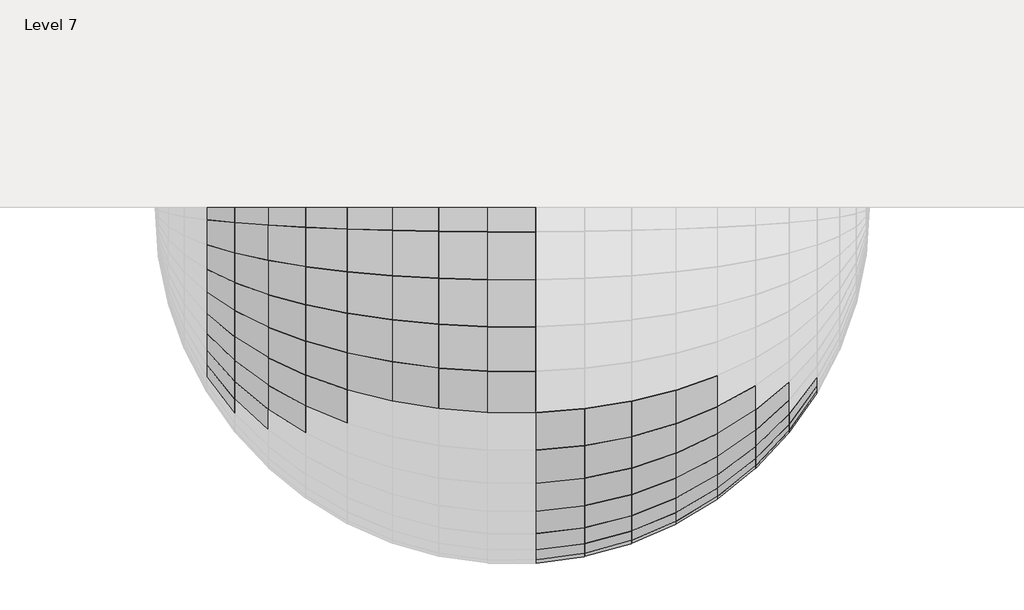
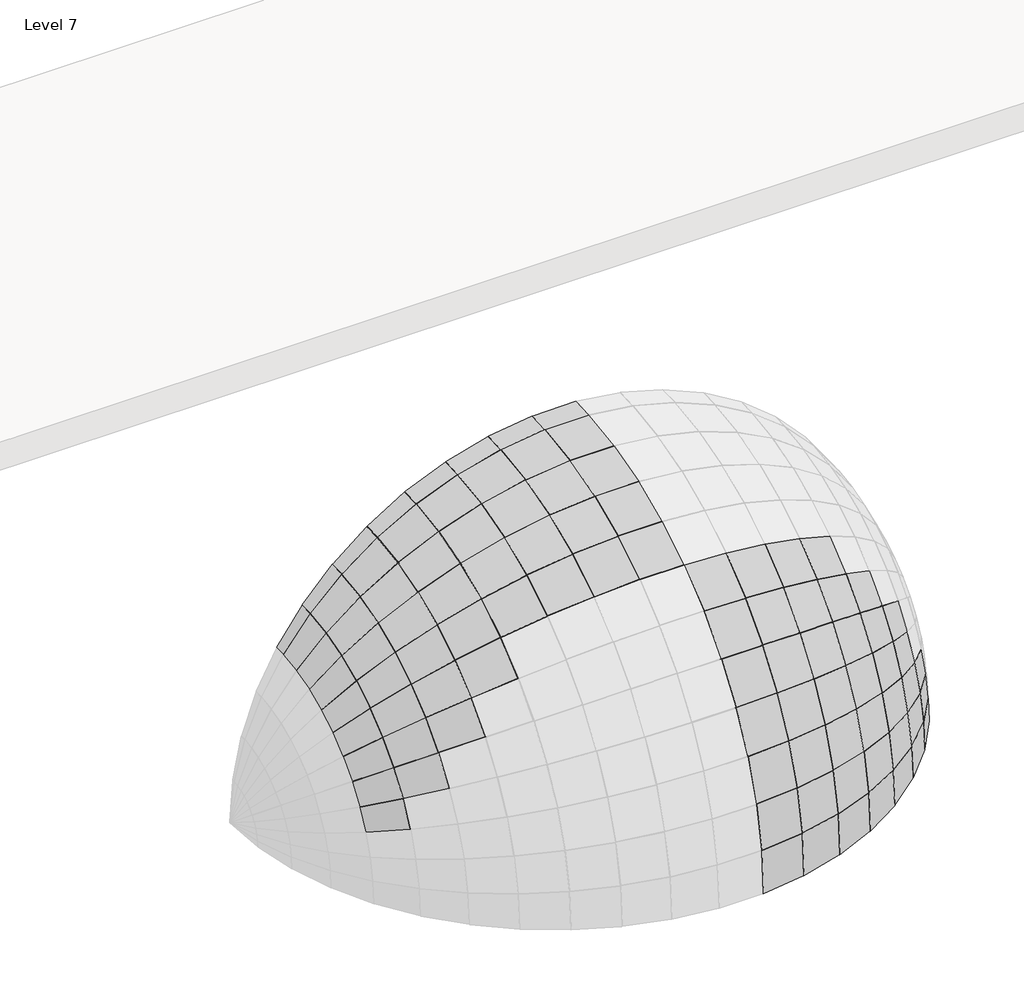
# One storey, part 2 of 3: 92 plates.
"""IFC4 building model written with IfcOpenShell, lengths in millimetres."""

from ifc_helpers import new_model, si_unit, origin, place, context, project, spatial, transform, mapped, element, save
from components import system_panel_glazed_054aaf1e, system_panel_glazed_d0cfcdc2, system_panel_glazed_7c4f69a4, system_panel_glazed_7d55cdd4, system_panel_glazed_fc79af4e, system_panel_glazed_79b3f248, system_panel_glazed_180d510e, system_panel_glazed_a12274b9, system_panel_glazed_a0e03bef, system_panel_glazed_9578890f, system_panel_glazed_840653ca, system_panel_glazed_4d6f9d44, system_panel_glazed_85b935d5, system_panel_glazed_d9b8dc20, system_panel_glazed_2d759943, system_panel_glazed_d4abd326, system_panel_glazed_30935f6d, system_panel_glazed_b87b3be6, system_panel_glazed_b6e2143d, system_panel_glazed_24286d06, system_panel_glazed_dedcf809, system_panel_glazed_0901b81b, system_panel_glazed_b232b679

model = new_model("IFC4")

# Units and contexts
model_context = context("Model", 3, world=origin())
ifc_project = project(units=[si_unit("LENGTHUNIT", "METRE", prefix="MILLI")], contexts=[model_context])

# Site, building, storey
site = spatial("IfcSite", under=ifc_project)
building = spatial("IfcBuilding", under=site)
storey = spatial("IfcBuildingStorey", under=building, Name="Level 7", Elevation=24000.0)

# Plates
placement = place(None, origin())
system_panel_glazed_shape = system_panel_glazed_054aaf1e(model_context)
element("IfcPlate", 1, ObjectType="System Panel : Glazed", at=placement, inside=storey, context=model_context, shape_type="MappedRepresentation", body=[
    mapped(system_panel_glazed_shape, transform((-3840.6464822, -3634.0650685, 17047.6400335), x_axis=(0.0, 0.4596875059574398, 0.8880807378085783), y_axis=(-0.8166520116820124, -0.5125383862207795, 0.2652996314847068), z_axis=(0.5771303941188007, -0.7252529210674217, 0.37540472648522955))),
])
element("IfcPlate", 2, ObjectType="System Panel : Glazed", at=placement, inside=storey, context=model_context, shape_type="MappedRepresentation", body=[
    mapped(system_panel_glazed_shape, transform((-3840.6464822, -3472.7197056, 17313.2518042), x_axis=(0.0, 0.5762336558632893, 0.817285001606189), y_axis=(-0.8166520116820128, -0.47168001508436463, 0.33256195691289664), z_axis=(0.5771303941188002, -0.6674374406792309, 0.47058237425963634))),
])
element("IfcPlate", 3, ObjectType="System Panel : Glazed", at=placement, inside=storey, context=model_context, shape_type="MappedRepresentation", body=[
    mapped(system_panel_glazed_shape, transform((-3840.6464822, -3276.7389543, 17554.4436032), x_axis=(0.0, 0.6820647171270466, 0.7312918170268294), y_axis=(-0.8166520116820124, -0.4220507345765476, 0.39364027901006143), z_axis=(0.577130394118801, -0.5972109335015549, 0.557009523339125))),
])
element("IfcPlate", 4, ObjectType="System Panel : Glazed", at=placement, inside=storey, context=model_context, shape_type="MappedRepresentation", body=[
    mapped(system_panel_glazed_shape, transform((-3840.6464822, -3049.7670848, 17766.7304593), x_axis=(0.0, 0.7752127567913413, 0.6317002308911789), y_axis=(-0.8166520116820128, -0.3645734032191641, 0.4473988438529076), z_axis=(0.5771303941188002, -0.5158792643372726, 0.6330790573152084))),
])
element("IfcPlate", 5, ObjectType="System Panel : Glazed", at=placement, inside=storey, context=model_context, shape_type="MappedRepresentation", body=[
    mapped(system_panel_glazed_shape, transform((-3840.6464822, -2796.0246482, 17946.1648894), x_axis=(0.0, 0.8539456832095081, 0.5203621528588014), y_axis=(-0.8166520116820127, -0.3003168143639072, 0.4928380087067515), z_axis=(0.5771303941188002, -0.4249547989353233, 0.6973764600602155))),
])
element("IfcPlate", 6, ObjectType="System Panel : Glazed", at=placement, inside=storey, context=model_context, shape_type="MappedRepresentation", body=[
    mapped(system_panel_glazed_shape, transform((-3840.6464822, -2520.2299958, 18089.410303), x_axis=(0.0, 0.9167994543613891, 0.3993479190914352), y_axis=(-0.8166520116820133, -0.23047582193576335, 0.5291128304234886), z_axis=(0.5771303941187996, -0.32612828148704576, 0.7487061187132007))),
])
element("IfcPlate", 7, ObjectType="System Panel : Glazed", at=placement, inside=storey, context=model_context, shape_type="MappedRepresentation", body=[
    mapped(system_panel_glazed_shape, transform((-3840.6464822, -2227.5115405, 18193.8030457), x_axis=(0.0, 0.9626053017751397, 0.270907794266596), y_axis=(-0.8166520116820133, -0.15634912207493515, 0.5555487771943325), z_axis=(0.5771303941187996, -0.2212373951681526, 0.7861135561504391))),
])
element("IfcPlate", 8, ObjectType="System Panel : Glazed", at=placement, inside=storey, context=model_context, shape_type="MappedRepresentation", body=[
    mapped(system_panel_glazed_shape, transform((-3840.6464822, -1923.312394, 18257.4019301), x_axis=(0.0, 0.9905114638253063, 0.1374301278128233), y_axis=(-0.8166520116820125, -0.07931510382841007, 0.5716542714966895), z_axis=(0.5771303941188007, -0.1122325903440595, 0.8089031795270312))),
])
system_panel_glazed_2_shape = system_panel_glazed_d0cfcdc2(model_context)
element("IfcPlate", 9, ObjectType="System Panel : Glazed", at=placement, inside=storey, context=model_context, shape_type="MappedRepresentation", body=[
    mapped(system_panel_glazed_2_shape, transform((-3840.6464822, -1689.5725514, 18281.5745896), x_axis=(0.0, 0.9993939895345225, 0.03480881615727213), y_axis=(-0.8171204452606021, -0.020066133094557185, 0.5761176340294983), z_axis=(0.5764669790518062, -0.028442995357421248, 0.8166252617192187))),
])
system_panel_glazed_3_shape = system_panel_glazed_7c4f69a4(model_context)
element("IfcPlate", 10, ObjectType="System Panel : Glazed", at=placement, inside=storey, context=model_context, shape_type="MappedRepresentation", body=[
    mapped(system_panel_glazed_3_shape, transform((-3494.9062887, -3872.5599363, 17595.1625176), x_axis=(0.0, 0.5762336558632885, 0.8172850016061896), y_axis=(-0.7304986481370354, -0.5581354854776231, 0.3935181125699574), z_axis=(0.6829141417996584, -0.5970255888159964, 0.4209379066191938))),
])
element("IfcPlate", 11, ObjectType="System Panel : Glazed", at=placement, inside=storey, context=model_context, shape_type="MappedRepresentation", body=[
    mapped(system_panel_glazed_3_shape, transform((-3494.9062887, -3634.5087509, 17888.1300324), x_axis=(0.0, 0.682064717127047, 0.7312918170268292), y_axis=(-0.730498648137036, -0.49940952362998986, 0.465791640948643), z_axis=(0.6829141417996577, -0.534207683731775, 0.49824735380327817))),
])
element("IfcPlate", 12, ObjectType="System Panel : Glazed", at=placement, inside=storey, context=model_context, shape_type="MappedRepresentation", body=[
    mapped(system_panel_glazed_3_shape, transform((-3494.9062887, -3358.8137032, 18145.9876913), x_axis=(0.0, 0.77521275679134, 0.6317002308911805), y_axis=(-0.730498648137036, -0.4313970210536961, 0.5294037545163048), z_axis=(0.6829141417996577, -0.46145616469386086, 0.5662918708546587))),
])
element("IfcPlate", 13, ObjectType="System Panel : Glazed", at=placement, inside=storey, context=model_context, shape_type="MappedRepresentation", body=[
    mapped(system_panel_glazed_3_shape, transform((-3494.9062887, -3050.6013538, 18363.9406204), x_axis=(0.0, 0.8539456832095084, 0.5203621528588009), y_axis=(-0.730498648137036, -0.3553626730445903, 0.5831715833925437), z_axis=(0.6829141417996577, -0.38012384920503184, 0.6238061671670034))),
])
element("IfcPlate", 14, ObjectType="System Panel : Glazed", at=placement, inside=storey, context=model_context, shape_type="MappedRepresentation", body=[
    mapped(system_panel_glazed_3_shape, transform((-3494.9062887, -2715.6029242, 18537.9359759), x_axis=(0.0, 0.9167994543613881, 0.3993479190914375), y_axis=(-0.7304986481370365, -0.2727203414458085, 0.626095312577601), z_axis=(0.6829141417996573, -0.29172311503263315, 0.6697207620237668))),
])
element("IfcPlate", 15, ObjectType="System Panel : Glazed", at=placement, inside=storey, context=model_context, shape_type="MappedRepresentation", body=[
    mapped(system_panel_glazed_3_shape, transform((-3494.9062887, -2360.047724, 18664.7383071), x_axis=(0.0, 0.9626053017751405, 0.27090779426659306), y_axis=(-0.7304986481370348, -0.18500676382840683, 0.6573767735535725), z_axis=(0.682914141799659, -0.19789777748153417, 0.703181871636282))),
])
element("IfcPlate", 16, ObjectType="System Panel : Glazed", at=placement, inside=storey, context=model_context, shape_type="MappedRepresentation", body=[
    mapped(system_panel_glazed_3_shape, transform((-3494.9062887, -1990.5473168, 18741.9897194), x_axis=(0.0, 0.9905114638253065, 0.13743012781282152), y_axis=(-0.7304986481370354, -0.09385297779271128, 0.6764342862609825), z_axis=(0.6829141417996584, -0.10039252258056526, 0.7235672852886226))),
])
system_panel_glazed_4_shape = system_panel_glazed_7d55cdd4(model_context)
element("IfcPlate", 17, ObjectType="System Panel : Glazed", at=placement, inside=storey, context=model_context, shape_type="MappedRepresentation", body=[
    mapped(system_panel_glazed_4_shape, transform((-3494.9062887, -1706.6314413, 18771.3514307), x_axis=(0.0, 0.9993939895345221, 0.03480881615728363), y_axis=(-0.7310855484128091, -0.023749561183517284, 0.6818723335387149), z_axis=(0.6822858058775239, -0.025448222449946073, 0.7306425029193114))),
])
system_panel_glazed_5_shape = system_panel_glazed_fc79af4e(model_context)
element("IfcPlate", 18, ObjectType="System Panel : Glazed", at=placement, inside=storey, context=model_context, shape_type="MappedRepresentation", body=[
    mapped(system_panel_glazed_5_shape, transform((-3085.6674584, -3954.6346851, 18186.7066057), x_axis=(0.0, 0.682064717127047, 0.7312918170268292), y_axis=(-0.6308155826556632, -0.5674333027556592, 0.5292363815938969), z_axis=(0.775932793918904, -0.4613102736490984, 0.4302570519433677))),
])
element("IfcPlate", 19, ObjectType="System Panel : Glazed", at=placement, inside=storey, context=model_context, shape_type="MappedRepresentation", body=[
    mapped(system_panel_glazed_5_shape, transform((-3085.6674584, -3635.34302, 18485.3401935), x_axis=(0.0, 0.7752127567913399, 0.6317002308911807), y_axis=(-0.6308155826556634, -0.49015692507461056, 0.6015130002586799), z_axis=(0.7759327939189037, -0.3984863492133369, 0.4890162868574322))),
])
element("IfcPlate", 20, ObjectType="System Panel : Glazed", at=placement, inside=storey, context=model_context, shape_type="MappedRepresentation", body=[
    mapped(system_panel_glazed_5_shape, transform((-3085.6674584, -3278.3919791, 18737.7587778), x_axis=(0.0, 0.853945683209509, 0.5203621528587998), y_axis=(-0.6308155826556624, -0.40376605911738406, 0.6626044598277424), z_axis=(0.7759327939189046, -0.32825255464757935, 0.5386822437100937))),
])
element("IfcPlate", 21, ObjectType="System Panel : Glazed", at=placement, inside=storey, context=model_context, shape_type="MappedRepresentation", body=[
    mapped(system_panel_glazed_5_shape, transform((-3085.6674584, -2890.419082, 18939.2686245), x_axis=(0.0, 0.9167994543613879, 0.39934791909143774), y_axis=(-0.630815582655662, -0.30986714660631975, 0.7113747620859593), z_axis=(0.7759327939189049, -0.2519148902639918, 0.5783313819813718))),
])
element("IfcPlate", 22, ObjectType="System Panel : Glazed", at=placement, inside=storey, context=model_context, shape_type="MappedRepresentation", body=[
    mapped(system_panel_glazed_5_shape, transform((-3085.6674584, -2478.6387005, 19086.1226496), x_axis=(0.0, 0.9626053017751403, 0.2709077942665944), y_axis=(-0.6308155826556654, -0.21020624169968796, 0.7469170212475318), z_axis=(0.7759327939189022, -0.17089285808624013, 0.6072264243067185))),
])
element("IfcPlate", 23, ObjectType="System Panel : Glazed", at=placement, inside=storey, context=model_context, shape_type="MappedRepresentation", body=[
    mapped(system_panel_glazed_5_shape, transform((-3085.6674584, -2050.707908, 19175.5900966), x_axis=(0.0, 0.9905114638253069, 0.13743012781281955), y_axis=(-0.6308155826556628, -0.10663654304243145, 0.7685703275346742), z_axis=(0.7759327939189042, -0.0866930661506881, 0.6248300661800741))),
])
system_panel_glazed_6_shape = system_panel_glazed_79b3f248(model_context)
element("IfcPlate", 24, ObjectType="System Panel : Glazed", at=placement, inside=storey, context=model_context, shape_type="MappedRepresentation", body=[
    mapped(system_panel_glazed_6_shape, transform((-3085.6674584, -1721.895427, 19209.5948775), x_axis=(0.0, 0.9993939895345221, 0.034808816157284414), y_axis=(-0.6314700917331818, -0.026990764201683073, 0.7749303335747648), z_axis=(0.7754002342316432, -0.021980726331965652, 0.6310874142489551))),
])
system_panel_glazed_7_shape = system_panel_glazed_180d510e(model_context)
element("IfcPlate", 25, ObjectType="System Panel : Glazed", at=placement, inside=storey, context=model_context, shape_type="MappedRepresentation", body=[
    mapped(system_panel_glazed_7_shape, transform((-2620.5398043, -3874.2129611, 18778.4776922), x_axis=(0.0, 0.7752127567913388, 0.6317002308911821), y_axis=(-0.5194782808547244, -0.5397775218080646, 0.6624066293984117), z_axis=(0.8544836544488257, -0.32815454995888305, 0.4027061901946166))),
])
element("IfcPlate", 26, ObjectType="System Panel : Glazed", at=placement, inside=storey, context=model_context, shape_type="MappedRepresentation", body=[
    mapped(system_panel_glazed_7_shape, transform((-2620.5398043, -3475.1607481, 19060.6681976), x_axis=(0.0, 0.8539456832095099, 0.5203621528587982), y_axis=(-0.5194782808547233, -0.44464095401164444, 0.7296826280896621), z_axis=(0.8544836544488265, -0.27031683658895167, 0.44360623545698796))),
])
element("IfcPlate", 27, ObjectType="System Panel : Glazed", at=placement, inside=storey, context=model_context, shape_type="MappedRepresentation", body=[
    mapped(system_panel_glazed_7_shape, transform((-2620.5398043, -3041.4277555, 19285.9454515), x_axis=(0.0, 0.916799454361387, 0.3993479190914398), y_axis=(-0.5194782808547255, -0.34123626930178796, 0.7833901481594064), z_axis=(0.8544836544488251, -0.20745257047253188, 0.4762574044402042))),
])
element("IfcPlate", 28, ObjectType="System Panel : Glazed", at=placement, inside=storey, context=model_context, shape_type="MappedRepresentation", body=[
    mapped(system_panel_glazed_7_shape, transform((-2620.5398043, -2581.079266, 19450.1204139), x_axis=(0.0, 0.9626053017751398, 0.27090779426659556), y_axis=(-0.5194782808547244, -0.23148628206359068, 0.8225304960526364), z_axis=(0.8544836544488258, -0.14073071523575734, 0.5000525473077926))),
])
element("IfcPlate", 29, ObjectType="System Panel : Glazed", at=placement, inside=storey, context=model_context, shape_type="MappedRepresentation", body=[
    mapped(system_panel_glazed_7_shape, transform((-2620.5398043, -2102.6754789, 19550.1402447), x_axis=(0.0, 0.9905114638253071, 0.1374301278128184), y_axis=(-0.5194782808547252, -0.11743179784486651, 0.8463758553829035), z_axis=(0.8544836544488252, -0.07139196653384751, 0.514549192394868))),
])
system_panel_glazed_8_shape = system_panel_glazed_a12274b9(model_context)
element("IfcPlate", 30, ObjectType="System Panel : Glazed", at=placement, inside=storey, context=model_context, shape_type="MappedRepresentation", body=[
    mapped(system_panel_glazed_8_shape, transform((-2620.5398043, -1735.0806741, 19588.1557748), x_axis=(0.0, 0.9993939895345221, 0.03480881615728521), y_axis=(-0.5201321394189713, -0.029729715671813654, 0.8535682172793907), z_axis=(0.8540858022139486, -0.018105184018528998, 0.5198169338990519))),
])
system_panel_glazed_9_shape = system_panel_glazed_a0e03bef(model_context)
element("IfcPlate", 31, ObjectType="System Panel : Glazed", at=placement, inside=storey, context=model_context, shape_type="MappedRepresentation", body=[
    mapped(system_panel_glazed_9_shape, transform((-2108.1723944, -3637.2487374, 19326.6643658), x_axis=(0.0, 0.85394568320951, 0.5203621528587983), y_axis=(-0.3985663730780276, -0.47724468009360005, 0.7831873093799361), z_axis=(0.9171394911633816, -0.20739885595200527, 0.3403540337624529))),
])
element("IfcPlate", 32, ObjectType="System Panel : Glazed", at=placement, inside=storey, context=model_context, shape_type="MappedRepresentation", body=[
    mapped(system_panel_glazed_9_shape, transform((-2108.1723944, -3165.8209322, 19571.5199871), x_axis=(0.0, 0.9167994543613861, 0.399347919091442), y_axis=(-0.39856637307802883, -0.36625774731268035, 0.8408329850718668), z_axis=(0.9171394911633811, -0.15916665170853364, 0.3654054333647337))),
])
element("IfcPlate", 33, ObjectType="System Panel : Glazed", at=placement, inside=storey, context=model_context, shape_type="MappedRepresentation", body=[
    mapped(system_panel_glazed_9_shape, transform((-2108.1723944, -2665.4645339, 19749.9630465), x_axis=(0.0, 0.9626053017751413, 0.2709077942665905), y_axis=(-0.3985663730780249, -0.24846023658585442, 0.8828433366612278), z_axis=(0.9171394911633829, -0.1079747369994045, 0.3836621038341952))),
])
element("IfcPlate", 34, ObjectType="System Panel : Glazed", at=placement, inside=storey, context=model_context, shape_type="MappedRepresentation", body=[
    mapped(system_panel_glazed_9_shape, transform((-2108.1723944, -2145.4836904, 19858.6753882), x_axis=(0.0, 0.9905114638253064, 0.13743012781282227), y_axis=(-0.39856637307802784, -0.12604259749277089, 0.9084371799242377), z_axis=(0.9171394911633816, -0.054775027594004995, 0.3947845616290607))),
])
system_panel_glazed_10_shape = system_panel_glazed_9578890f(model_context)
element("IfcPlate", 35, ObjectType="System Panel : Glazed", at=placement, inside=storey, context=model_context, shape_type="MappedRepresentation", body=[
    mapped(system_panel_glazed_10_shape, transform((-2108.1723944, -1745.9420024, 19899.9947673), x_axis=(0.0, 0.9993939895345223, 0.034808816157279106), y_axis=(-0.3991444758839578, -0.031915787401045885, 0.9163324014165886), z_axis=(0.9168880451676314, -0.013893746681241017, 0.39890259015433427))),
])
system_panel_glazed_11_shape = system_panel_glazed_840653ca(model_context)
element("IfcPlate", 36, ObjectType="System Panel : Glazed", at=placement, inside=storey, context=model_context, shape_type="MappedRepresentation", body=[
    mapped(system_panel_glazed_11_shape, transform((-1558.0927218, -3761.6419141, 19530.8010727), x_axis=(0.0, 0.8539456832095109, 0.5203621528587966), y_axis=(-0.27032348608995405, -0.5009888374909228, 0.8221529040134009), z_axis=(0.9627695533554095, -0.14066611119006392, 0.23084157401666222))),
])
element("IfcPlate", 37, ObjectType="System Panel : Glazed", at=placement, inside=storey, context=model_context, shape_type="MappedRepresentation", body=[
    mapped(system_panel_glazed_11_shape, transform((-1558.0927218, -3261.2855158, 19790.6819609), x_axis=(0.0, 0.9167994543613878, 0.39934791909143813), y_axis=(-0.2703234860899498, -0.3844800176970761, 0.8826666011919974), z_axis=(0.9627695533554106, -0.10795312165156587, 0.24783242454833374))),
])
element("IfcPlate", 38, ObjectType="System Panel : Glazed", at=placement, inside=storey, context=model_context, shape_type="MappedRepresentation", body=[
    mapped(system_panel_glazed_11_shape, transform((-1558.0927218, -2730.2253566, 19980.0749614), x_axis=(0.0, 0.9626053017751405, 0.27090779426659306), y_axis=(-0.27032348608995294, -0.26082177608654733, 0.9267670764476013), z_axis=(0.9627695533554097, -0.07323273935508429, 0.26021482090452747))),
])
element("IfcPlate", 39, ObjectType="System Panel : Glazed", at=placement, inside=storey, context=model_context, shape_type="MappedRepresentation", body=[
    mapped(system_panel_glazed_11_shape, transform((-1558.0927218, -2178.336522, 20095.4583035), x_axis=(0.0, 0.9905114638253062, 0.13743012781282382), y_axis=(-0.27032348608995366, -0.1323135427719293, 0.953634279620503), z_axis=(0.9627695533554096, -0.03715059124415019, 0.26775851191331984))),
])
system_panel_glazed_12_shape = system_panel_glazed_4d6f9d44(model_context)
element("IfcPlate", 40, ObjectType="System Panel : Glazed", at=placement, inside=storey, context=model_context, shape_type="MappedRepresentation", body=[
    mapped(system_panel_glazed_12_shape, transform((-1558.0927218, -1754.2774449, 20139.313196), x_axis=(0.0, 0.9993939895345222, 0.03480881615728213), y_axis=(-0.27075565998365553, -0.03350864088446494, 0.962064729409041), z_axis=(0.9626481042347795, -0.009424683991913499, 0.27059157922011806))),
])
system_panel_glazed_13_shape = system_panel_glazed_85b935d5(model_context)
element("IfcPlate", 41, ObjectType="System Panel : Glazed", at=placement, inside=storey, context=model_context, shape_type="MappedRepresentation", body=[
    mapped(system_panel_glazed_13_shape, transform((-980.5295407, -3846.027182, 19669.2823877), x_axis=(0.0, 0.8539456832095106, 0.5203621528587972), y_axis=(-0.13711633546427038, -0.5154473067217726, 0.845880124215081), z_axis=(0.9905549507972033, -0.07135015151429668, 0.11708990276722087))),
])
element("IfcPlate", 42, ObjectType="System Panel : Glazed", at=placement, inside=storey, context=model_context, shape_type="MappedRepresentation", body=[
    mapped(system_panel_glazed_13_shape, transform((-980.5295407, -3326.0463385, 19939.356047), x_axis=(0.0, 0.9167994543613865, 0.3993479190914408), y_axis=(-0.1371163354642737, -0.3955760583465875, 0.9081402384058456), z_axis=(0.9905549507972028, -0.05475712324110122, 0.12570818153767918))),
])
element("IfcPlate", 43, ObjectType="System Panel : Glazed", at=placement, inside=storey, context=model_context, shape_type="MappedRepresentation", body=[
    mapped(system_panel_glazed_13_shape, transform((-980.5295407, -2774.1575039, 20136.1772178), x_axis=(0.0, 0.9626053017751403, 0.2709077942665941), y_axis=(-0.1371163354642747, -0.26834905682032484, 0.9535134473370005), z_axis=(0.9905549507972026, -0.037145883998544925, 0.13198891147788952))),
])
element("IfcPlate", 44, ObjectType="System Panel : Glazed", at=placement, inside=storey, context=model_context, shape_type="MappedRepresentation", body=[
    mapped(system_panel_glazed_13_shape, transform((-980.5295407, -2200.6230739, 20256.0860023), x_axis=(0.0, 0.9905114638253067, 0.13743012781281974), y_axis=(-0.13711633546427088, -0.1361320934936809, 0.9811560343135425), z_axis=(0.9905549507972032, -0.01884391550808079, 0.1358153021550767))),
])
system_panel_glazed_14_shape = system_panel_glazed_d9b8dc20(model_context)
element("IfcPlate", 45, ObjectType="System Panel : Glazed", at=placement, inside=storey, context=model_context, shape_type="MappedRepresentation", body=[
    mapped(system_panel_glazed_14_shape, transform((-980.5295407, -1759.9320039, 20301.6609247), x_axis=(0.0, 0.9993939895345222, 0.0348088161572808), y_axis=(-0.1373484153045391, -0.034478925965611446, 0.9899225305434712), z_axis=(0.990522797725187, -0.004780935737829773, 0.13726518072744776))),
])
system_panel_glazed_15_shape = system_panel_glazed_2d759943(model_context)
element("IfcPlate", 46, ObjectType="System Panel : Glazed", at=placement, inside=storey, context=model_context, shape_type="MappedRepresentation", body=[
    mapped(system_panel_glazed_15_shape, transform((-386.2226624, -3888.8353935, 19739.5332451), x_axis=(0.0, 0.8539456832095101, 0.520362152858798), y_axis=(-0.0013936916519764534, -0.5203616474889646, 0.8539448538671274), z_axis=(0.9999990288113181, -0.0007252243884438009, 0.001190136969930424))),
])
element("IfcPlate", 47, ObjectType="System Panel : Glazed", at=placement, inside=storey, context=model_context, shape_type="MappedRepresentation", body=[
    mapped(system_panel_glazed_15_shape, transform((-386.2226624, -3358.8991701, 20014.7776447), x_axis=(0.0, 0.9167994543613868, 0.3993479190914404), y_axis=(-0.0013936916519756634, -0.3993475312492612, 0.916798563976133), z_axis=(0.9999990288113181, -0.0005565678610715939, 0.0012777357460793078))),
])
element("IfcPlate", 48, ObjectType="System Panel : Glazed", at=placement, inside=storey, context=model_context, shape_type="MappedRepresentation", body=[
    mapped(system_panel_glazed_15_shape, transform((-386.2226624, -2796.4440559, 20215.367088), x_axis=(0.0, 0.9626053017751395, 0.2709077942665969), y_axis=(-0.0013936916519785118, -0.2709075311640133, 0.9626043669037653), z_axis=(0.9999990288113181, -0.0003775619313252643, 0.0013415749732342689))),
])
element("IfcPlate", 49, ObjectType="System Panel : Glazed", at=placement, inside=storey, context=model_context, shape_type="MappedRepresentation", body=[
    mapped(system_panel_glazed_15_shape, transform((-386.2226624, -2211.9289269, 20337.5716061), x_axis=(0.0, 0.9905114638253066, 0.13743012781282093), y_axis=(-0.0013936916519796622, -0.13742999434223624, 0.9905105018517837), z_axis=(0.999999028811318, -0.0001915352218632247, 0.001380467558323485))),
])
system_panel_glazed_16_shape = system_panel_glazed_d4abd326(model_context)
element("IfcPlate", 50, ObjectType="System Panel : Glazed", at=placement, inside=storey, context=model_context, shape_type="MappedRepresentation", body=[
    mapped(system_panel_glazed_16_shape, transform((-386.2226624, -1762.8005325, 20384.0190907), x_axis=(0.0, 0.9993939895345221, 0.03480881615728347), y_axis=(-0.0013960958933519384, -0.0348087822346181, 0.9993930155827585), z_axis=(0.9999990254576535, -4.859644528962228e-05, 0.0013952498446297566))),
])
system_panel_glazed_17_shape = system_panel_glazed_30935f6d(model_context)
element("IfcPlate", 51, ObjectType="System Panel : Glazed", at=placement, inside=storey, context=model_context, shape_type="MappedRepresentation", body=[
    mapped(system_panel_glazed_17_shape, transform((213.7767522, -5979.872222, 16298.6335879), x_axis=(0.0, 0.068181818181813, 0.9976729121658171), y_axis=(0.134354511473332, -0.9886273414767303, 0.06756363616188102), z_axis=(0.9909333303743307, 0.13404185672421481, -0.009160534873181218))),
])
element("IfcPlate", 52, ObjectType="System Panel : Glazed", at=placement, inside=storey, context=model_context, shape_type="MappedRepresentation", body=[
    mapped(system_panel_glazed_17_shape, transform((213.7767522, -5898.6162289, 16890.3476597), x_axis=(0.0, 0.2032776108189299, 0.9791211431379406), y_axis=(0.13435451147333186, -0.9702437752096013, 0.20143455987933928), z_axis=(0.9909333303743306, 0.13154934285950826, -0.02731126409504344))),
])
element("IfcPlate", 53, ObjectType="System Panel : Glazed", at=placement, inside=storey, context=model_context, shape_type="MappedRepresentation", body=[
    mapped(system_panel_glazed_17_shape, transform((213.7767522, -5737.6152013, 17465.50568), x_axis=(0.0, 0.33459344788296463, 0.9423625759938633), y_axis=(0.134354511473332, -0.9338184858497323, 0.3315597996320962), z_axis=(0.9909333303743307, 0.12661066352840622, -0.04495413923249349))),
])
element("IfcPlate", 54, ObjectType="System Panel : Glazed", at=placement, inside=storey, context=model_context, shape_type="MappedRepresentation", body=[
    mapped(system_panel_glazed_17_shape, transform((213.7767522, -5499.8629599, 18013.4125617), x_axis=(0.0, 0.45968750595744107, 0.8880807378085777), y_axis=(0.13435451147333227, -0.8800288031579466, 0.4555196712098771), z_axis=(0.9909333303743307, 0.11931765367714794, -0.06176109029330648))),
])
element("IfcPlate", 55, ObjectType="System Panel : Glazed", at=placement, inside=storey, context=model_context, shape_type="MappedRepresentation", body=[
    mapped(system_panel_glazed_17_shape, transform((213.7767522, -5189.7805175, 18523.8799535), x_axis=(0.0, 0.576233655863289, 0.8172850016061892), y_axis=(0.13435451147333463, -0.809874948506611, 0.5710091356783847), z_axis=(0.9909333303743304, 0.10980592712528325, -0.07741959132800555))),
])
element("IfcPlate", 56, ObjectType="System Panel : Glazed", at=placement, inside=storey, context=model_context, shape_type="MappedRepresentation", body=[
    mapped(system_panel_glazed_17_shape, transform((213.7767522, -4813.1338699, 18987.4156934), x_axis=(0.0, 0.682064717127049, 0.7312918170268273), y_axis=(0.13435451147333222, -0.7246614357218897, 0.6758806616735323), z_axis=(0.9909333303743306, 0.09825235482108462, -0.09163847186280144))),
])
element("IfcPlate", 57, ObjectType="System Panel : Glazed", at=placement, inside=storey, context=model_context, shape_type="MappedRepresentation", body=[
    mapped(system_panel_glazed_17_shape, transform((213.7767522, -4376.9267772, 19395.4003149), x_axis=(0.0, 0.7752127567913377, 0.6317002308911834), y_axis=(0.13435451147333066, -0.6259728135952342, 0.7681841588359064), z_axis=(0.990933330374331, 0.08487177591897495, -0.10415333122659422))),
])
system_panel_glazed_18_shape = system_panel_glazed_b87b3be6(model_context)
element("IfcPlate", 58, ObjectType="System Panel : Glazed", at=placement, inside=storey, context=model_context, shape_type="MappedRepresentation", body=[
    mapped(system_panel_glazed_18_shape, transform((808.3116891, -5899.4504979, 16293.1374986), x_axis=(0.0, 0.0681818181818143, 0.997672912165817), y_axis=(0.26763792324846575, -0.9612773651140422, 0.0656945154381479), z_axis=(0.9635195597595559, 0.2670151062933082, -0.018248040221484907))),
])
element("IfcPlate", 59, ObjectType="System Panel : Glazed", at=placement, inside=storey, context=model_context, shape_type="MappedRepresentation", body=[
    mapped(system_panel_glazed_18_shape, transform((808.3116891, -5819.6899501, 16873.961592), x_axis=(0.0, 0.2032776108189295, 0.9791211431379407), y_axis=(0.26763792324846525, -0.9434023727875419, 0.1958619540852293), z_axis=(0.963519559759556, 0.2620499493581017, -0.05440479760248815))),
])
element("IfcPlate", 60, ObjectType="System Panel : Glazed", at=placement, inside=storey, context=model_context, shape_type="MappedRepresentation", body=[
    mapped(system_panel_glazed_18_shape, transform((808.3116891, -5661.6520052, 17438.5343334), x_axis=(0.0, 0.33459344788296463, 0.9423625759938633), y_axis=(0.2676379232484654, -0.9079847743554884, 0.32238733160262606), z_axis=(0.9635195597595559, 0.25221196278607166, -0.08954989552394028))),
])
element("IfcPlate", 61, ObjectType="System Panel : Glazed", at=placement, inside=storey, context=model_context, shape_type="MappedRepresentation", body=[
    mapped(system_panel_glazed_18_shape, transform((808.3116891, -5428.2753853, 17976.3574695), x_axis=(0.0, 0.45968750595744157, 0.8880807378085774), y_axis=(0.2676379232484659, -0.855683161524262, 0.44291790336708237), z_axis=(0.9635195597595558, 0.23768408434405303, -0.12302980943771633))),
])
element("IfcPlate", 62, ObjectType="System Panel : Glazed", at=placement, inside=storey, context=model_context, shape_type="MappedRepresentation", body=[
    mapped(system_panel_glazed_18_shape, transform((808.3116891, -5123.8997383, 18477.4301567), x_axis=(0.0, 0.5762336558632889, 0.8172850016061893), y_axis=(0.26763792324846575, -0.7874700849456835, 0.5552123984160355), z_axis=(0.9635195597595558, 0.2187364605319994, -0.15422197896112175))),
])
element("IfcPlate", 63, ObjectType="System Panel : Glazed", at=placement, inside=storey, context=model_context, shape_type="MappedRepresentation", body=[
    mapped(system_panel_glazed_18_shape, transform((808.3116891, -4754.1849419, 18932.4349278), x_axis=(0.0, 0.6820647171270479, 0.7312918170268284), y_axis=(0.2676379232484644, -0.7046139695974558, 0.6571826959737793), z_axis=(0.9635195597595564, 0.19572142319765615, -0.1825463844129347))),
])
element("IfcPlate", 64, ObjectType="System Panel : Glazed", at=placement, inside=storey, context=model_context, shape_type="MappedRepresentation", body=[
    mapped(system_panel_glazed_18_shape, transform((808.3116891, -4326.0058581, 19332.9109503), x_axis=(0.0, 0.7752127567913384, 0.6317002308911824), y_axis=(0.2676379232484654, -0.608655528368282, 0.7469326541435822), z_axis=(0.963519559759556, 0.1690669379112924, -0.2074763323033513))),
])
system_panel_glazed_19_shape = system_panel_glazed_b6e2143d(model_context)
element("IfcPlate", 65, ObjectType="System Panel : Glazed", at=placement, inside=storey, context=model_context, shape_type="MappedRepresentation", body=[
    mapped(system_panel_glazed_19_shape, transform((1386.3267467, -5739.2682261, 16282.1905055), x_axis=(0.0, 0.06818181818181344, 0.9976729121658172), y_axis=(0.39600652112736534, -0.9161108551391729, 0.0626077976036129), z_axis=(0.9182476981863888, 0.3950849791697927, -0.02700044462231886))),
])
element("IfcPlate", 66, ObjectType="System Panel : Glazed", at=placement, inside=storey, context=model_context, shape_type="MappedRepresentation", body=[
    mapped(system_panel_glazed_19_shape, transform((1386.3267467, -5662.4862743, 16841.3241723), x_axis=(0.0, 0.2032776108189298, 0.9791211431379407), y_axis=(0.3960065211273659, -0.8990757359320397, 0.18665919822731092), z_axis=(0.9182476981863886, 0.3877383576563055, -0.08049925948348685))),
])
element("IfcPlate", 67, ObjectType="System Panel : Glazed", at=placement, inside=storey, context=model_context, shape_type="MappedRepresentation", body=[
    mapped(system_panel_glazed_19_shape, transform((1386.3267467, -5510.3501342, 17384.8133814), x_axis=(0.0, 0.3345934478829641, 0.9423625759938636), y_axis=(0.3960065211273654, -0.8653222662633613, 0.3072396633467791), z_axis=(0.9182476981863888, 0.3731817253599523, -0.13250118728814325))),
])
element("IfcPlate", 68, ObjectType="System Panel : Glazed", at=placement, inside=storey, context=model_context, shape_type="MappedRepresentation", body=[
    mapped(system_panel_glazed_19_shape, transform((1386.3267467, -5285.6887836, 17902.5519285), x_axis=(0.0, 0.45968750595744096, 0.8880807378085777), y_axis=(0.3960065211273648, -0.8154780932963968, 0.42210699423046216), z_axis=(0.9182476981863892, 0.35168576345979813, -0.1820392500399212))),
])
element("IfcPlate", 69, ObjectType="System Panel : Glazed", at=placement, inside=storey, context=model_context, shape_type="MappedRepresentation", body=[
    mapped(system_panel_glazed_19_shape, transform((1386.3267467, -4992.6798097, 18384.9124438), x_axis=(0.0, 0.5762336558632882, 0.8172850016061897), y_axis=(0.3960065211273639, -0.7504700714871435, 0.5291252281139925), z_axis=(0.9182476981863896, 0.32365019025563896, -0.22819228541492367))),
])
element("IfcPlate", 70, ObjectType="System Panel : Glazed", at=placement, inside=storey, context=model_context, shape_type="MappedRepresentation", body=[
    mapped(system_panel_glazed_19_shape, transform((1386.3267467, -4636.7717264, 18822.9254136), x_axis=(0.0, 0.6820647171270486, 0.7312918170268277), y_axis=(0.3960065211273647, -0.6715070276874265, 0.6263043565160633), z_axis=(0.9182476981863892, 0.2895963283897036, -0.2701020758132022))),
])
element("IfcPlate", 71, ObjectType="System Panel : Glazed", at=placement, inside=storey, context=model_context, shape_type="MappedRepresentation", body=[
    mapped(system_panel_glazed_19_shape, transform((1386.3267467, -4224.5826593, 19208.4459688), x_axis=(0.0, 0.7752127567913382, 0.6317002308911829), y_axis=(0.3960065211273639, -0.5800572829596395, 0.7118373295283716), z_axis=(0.9182476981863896, 0.2501574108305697, -0.3069893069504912))),
])
system_panel_glazed_20_shape = system_panel_glazed_24286d06(model_context)
element("IfcPlate", 72, ObjectType="System Panel : Glazed", at=placement, inside=storey, context=model_context, shape_type="MappedRepresentation", body=[
    mapped(system_panel_glazed_20_shape, transform((1937.073711, -5502.3040024, 16265.9961682), x_axis=(0.0, 0.06818181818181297, 0.9976729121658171), y_axis=(0.5170914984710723, -0.8539383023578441, 0.058358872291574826), z_axis=(0.8559301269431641, 0.5158881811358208, -0.035256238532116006))),
])
element("IfcPlate", 73, ObjectType="System Panel : Glazed", at=placement, inside=storey, context=model_context, shape_type="MappedRepresentation", body=[
    mapped(system_panel_glazed_20_shape, transform((1937.073711, -5429.9284101, 16793.0422949), x_axis=(0.0, 0.20327761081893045, 0.9791211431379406), y_axis=(0.5170914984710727, -0.8380592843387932, 0.17399143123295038), z_axis=(0.8559301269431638, 0.5062952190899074, -0.10511312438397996))),
])
element("IfcPlate", 74, ObjectType="System Panel : Glazed", at=placement, inside=storey, context=model_context, shape_type="MappedRepresentation", body=[
    mapped(system_panel_glazed_20_shape, transform((1937.073711, -5286.5230527, 17305.3417674), x_axis=(0.0, 0.33459344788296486, 0.9423625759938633), y_axis=(0.5170914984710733, -0.8065965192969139, 0.28638861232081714), z_axis=(0.8559301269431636, 0.4872876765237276, -0.17301542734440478))),
])
element("IfcPlate", 75, ObjectType="System Panel : Glazed", at=placement, inside=storey, context=model_context, shape_type="MappedRepresentation", body=[
    mapped(system_panel_glazed_20_shape, transform((1937.073711, -5074.7545586, 17793.3683557), x_axis=(0.0, 0.4596875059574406, 0.8880807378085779), y_axis=(0.5170914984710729, -0.7601350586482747, 0.39346038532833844), z_axis=(0.8559301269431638, 0.4592189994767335, -0.23770050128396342))),
])
element("IfcPlate", 76, ObjectType="System Panel : Glazed", at=placement, inside=storey, context=model_context, shape_type="MappedRepresentation", body=[
    mapped(system_panel_glazed_20_shape, transform((1937.073711, -4798.5607717, 18248.0471854), x_axis=(0.0, 0.5762336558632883, 0.8172850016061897), y_axis=(0.5170914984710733, -0.6995388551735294, 0.4932157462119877), z_axis=(0.8559301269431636, 0.4226111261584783, -0.2979655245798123))),
])
element("IfcPlate", 77, ObjectType="System Panel : Glazed", at=placement, inside=storey, context=model_context, shape_type="MappedRepresentation", body=[
    mapped(system_panel_glazed_20_shape, transform((1937.073711, -4463.0775271, 18660.9234847), x_axis=(0.0, 0.6820647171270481, 0.7312918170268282), y_axis=(0.5170914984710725, -0.6259346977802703, 0.5837997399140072), z_axis=(0.8559301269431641, 0.37814478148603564, -0.3526898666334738))),
])
element("IfcPlate", 78, ObjectType="System Panel : Glazed", at=placement, inside=storey, context=model_context, shape_type="MappedRepresentation", body=[
    mapped(system_panel_glazed_20_shape, transform((1937.073711, -4074.5431494, 19024.3198019), x_axis=(0.0, 0.7752127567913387, 0.6317002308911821), y_axis=(0.5170914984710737, -0.5406912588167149, 0.6635279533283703), z_axis=(0.8559301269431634, 0.32664681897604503, -0.40085592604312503))),
])
system_panel_glazed_21_shape = system_panel_glazed_dedcf809(model_context)
element("IfcPlate", 79, ObjectType="System Panel : Glazed", at=placement, inside=storey, context=model_context, shape_type="MappedRepresentation", body=[
    mapped(system_panel_glazed_21_shape, transform((2450.3114195, -5192.9641865, 16244.8556212), x_axis=(0.0, 0.0681818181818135, 0.9976729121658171), y_axis=(0.628646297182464, -0.7758815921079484, 0.05302441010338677), z_axis=(0.7776913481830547, 0.6271833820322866, -0.042862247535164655))),
])
element("IfcPlate", 80, ObjectType="System Panel : Glazed", at=placement, inside=storey, context=model_context, shape_type="MappedRepresentation", body=[
    mapped(system_panel_glazed_21_shape, transform((2450.3114195, -5126.3407808, 16730.0137633), x_axis=(0.0, 0.20327761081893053, 0.9791211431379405), y_axis=(0.6286462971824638, -0.7614540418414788, 0.15808723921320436), z_axis=(0.7776913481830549, 0.6155208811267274, -0.12778971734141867))),
])
element("IfcPlate", 81, ObjectType="System Panel : Glazed", at=placement, inside=storey, context=model_context, shape_type="MappedRepresentation", body=[
    mapped(system_panel_glazed_21_shape, transform((2450.3114195, -4994.3328345, 17201.5972692), x_axis=(0.0, 0.33459344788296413, 0.9423625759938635), y_axis=(0.628646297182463, -0.732867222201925, 0.26021042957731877), z_axis=(0.7776913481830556, 0.5924127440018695, -0.21034093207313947))),
])
element("IfcPlate", 82, ObjectType="System Panel : Glazed", at=placement, inside=storey, context=model_context, shape_type="MappedRepresentation", body=[
    mapped(system_panel_glazed_21_shape, transform((2450.3114195, -4799.3950408, 17650.8370243), x_axis=(0.0, 0.4596875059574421, 0.8880807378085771), y_axis=(0.6286462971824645, -0.6906527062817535, 0.3574949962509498), z_axis=(0.7776913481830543, 0.5582886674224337, -0.288980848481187))),
])
element("IfcPlate", 83, ObjectType="System Panel : Glazed", at=placement, inside=storey, context=model_context, shape_type="MappedRepresentation", body=[
    mapped(system_panel_glazed_21_shape, transform((2450.3114195, -4545.1522759, 18069.3793967), x_axis=(0.0, 0.5762336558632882, 0.8172850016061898), y_axis=(0.6286462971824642, -0.6355954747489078, 0.4481319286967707), z_axis=(0.7776913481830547, 0.5137831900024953, -0.3622471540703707))),
])
element("IfcPlate", 84, ObjectType="System Panel : Glazed", at=placement, inside=storey, context=model_context, shape_type="MappedRepresentation", body=[
    mapped(system_panel_glazed_21_shape, transform((2450.3114195, -4236.3321947, 18449.4415737), x_axis=(0.0, 0.6820647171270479, 0.7312918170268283), y_axis=(0.6286462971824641, -0.5687193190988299, 0.5304358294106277), z_axis=(0.7776913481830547, 0.4597238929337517, -0.42877745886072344))),
])
system_panel_glazed_22_shape = system_panel_glazed_0901b81b(model_context)
element("IfcPlate", 85, ObjectType="System Panel : Glazed", at=placement, inside=storey, context=model_context, shape_type="MappedRepresentation", body=[
    mapped(system_panel_glazed_22_shape, transform((2916.4961959, -4817.0009649, 16219.1619738), x_axis=(0.0, 0.06818181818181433, 0.997672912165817), y_axis=(0.7285875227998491, -0.6833587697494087, 0.04670132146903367), z_axis=(0.6849527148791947, 0.7268920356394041, -0.049676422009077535))),
])
element("IfcPlate", 86, ObjectType="System Panel : Glazed", at=placement, inside=storey, context=model_context, shape_type="MappedRepresentation", body=[
    mapped(system_panel_glazed_22_shape, transform((2916.4961959, -4757.3686109, 16653.4105955), x_axis=(0.0, 0.2032776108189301, 0.9791211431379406), y_axis=(0.728587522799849, -0.6706516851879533, 0.13923555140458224), z_axis=(0.684952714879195, 0.7133754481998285, -0.14810553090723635))),
])
element("IfcPlate", 87, ObjectType="System Panel : Glazed", at=placement, inside=storey, context=model_context, shape_type="MappedRepresentation", body=[
    mapped(system_panel_glazed_22_shape, transform((2916.4961959, -4639.212769, 17075.5090202), x_axis=(0.0, 0.3345934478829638, 0.9423625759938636), y_axis=(0.7285875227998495, -0.6454738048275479, 0.22918069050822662), z_axis=(0.6849527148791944, 0.6865936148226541, -0.24378061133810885))),
])
element("IfcPlate", 88, ObjectType="System Panel : Glazed", at=placement, inside=storey, context=model_context, shape_type="MappedRepresentation", body=[
    mapped(system_panel_glazed_22_shape, transform((2916.4961959, -4464.7305519, 17477.6083102), x_axis=(0.0, 0.45968750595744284, 0.8880807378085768), y_axis=(0.7285875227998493, -0.6082933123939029, 0.3148642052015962), z_axis=(0.6849527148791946, 0.6470445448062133, -0.33492258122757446))),
])
element("IfcPlate", 89, ObjectType="System Panel : Glazed", at=placement, inside=storey, context=model_context, shape_type="MappedRepresentation", body=[
    mapped(system_panel_glazed_22_shape, transform((2916.4961959, -4237.1664637, 17852.2314126), x_axis=(0.0, 0.5762336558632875, 0.8172850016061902), y_axis=(0.7285875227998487, -0.5598015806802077, 0.39469280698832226), z_axis=(0.6849527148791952, 0.5954636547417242, -0.4198366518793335))),
])
system_panel_glazed_23_shape = system_panel_glazed_b232b679(model_context)
element("IfcPlate", 90, ObjectType="System Panel : Glazed", at=placement, inside=storey, context=model_context, shape_type="MappedRepresentation", body=[
    mapped(system_panel_glazed_23_shape, transform((3326.9593148, -4381.4053893, 16189.3930005), x_axis=(0.0, 0.06818181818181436, 0.9976729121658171), y_axis=(0.8150351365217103, -0.5780631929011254, 0.039505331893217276), z_axis=(0.5794115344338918, 0.8131384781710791, -0.055570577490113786))),
])
element("IfcPlate", 91, ObjectType="System Panel : Glazed", at=placement, inside=storey, context=model_context, shape_type="MappedRepresentation", body=[
    mapped(system_panel_glazed_23_shape, transform((3326.9593148, -4329.872953, 16564.6572308), x_axis=(0.0, 0.2032776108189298, 0.9791211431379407), y_axis=(0.8150351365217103, -0.5673140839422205, 0.11778139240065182), z_axis=(0.579411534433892, 0.7980181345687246, -0.16567839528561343))),
])
element("IfcPlate", 92, ObjectType="System Panel : Glazed", at=placement, inside=storey, context=model_context, shape_type="MappedRepresentation", body=[
    mapped(system_panel_glazed_23_shape, transform((3326.9593148, -4227.7663282, 16929.4216365), x_axis=(0.0, 0.33459344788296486, 0.9423625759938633), y_axis=(0.8150351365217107, -0.5460157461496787, 0.19386730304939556), z_axis=(0.5794115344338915, 0.7680586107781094, -0.2727054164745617))),
])

save(model, "model.ifc")
